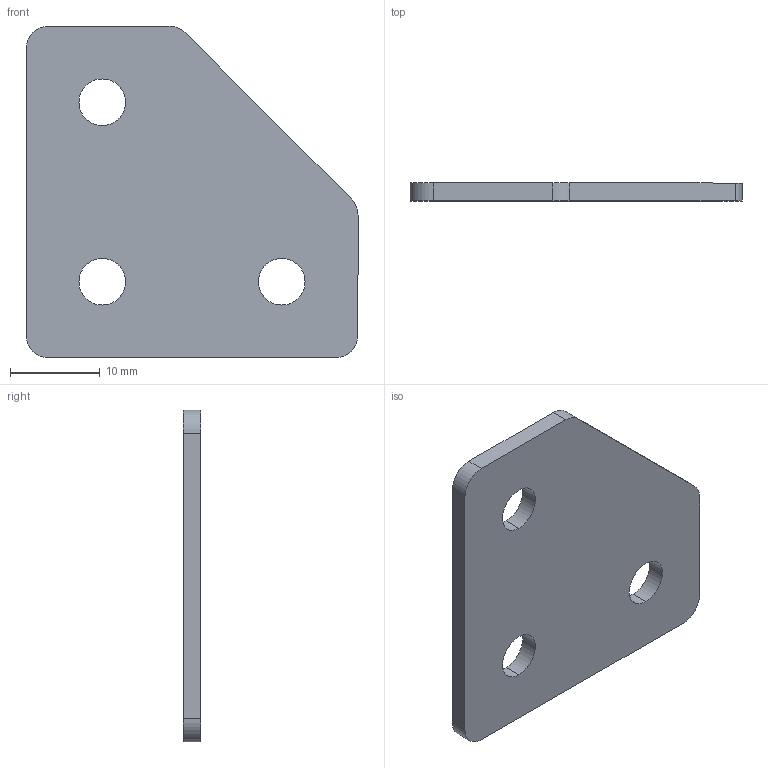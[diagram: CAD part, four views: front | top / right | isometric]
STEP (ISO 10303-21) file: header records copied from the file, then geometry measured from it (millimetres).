
FILE_DESCRIPTION (( 'STEP AP203' ), '1' );
FILE_NAME ('g-3-u-20.STEP', '2016-07-19T10:44:24', ( 'RosInstal-MKM' ), ( '' ), 'SwSTEP 2.0', 'SolidWorks 2014', '' );
FILE_SCHEMA (( 'CONFIG_CONTROL_DESIGN' ));
Length unit declared in the file: millimetre
Products named in the file (1): g-3-u-20
Bounding box: 37 x 2 x 37 mm (x, y, z)
Volume: 2201.3 mm3; surface area: 2564.7 mm2
Topology: 1 solids, 1 shells, 18 faces, 48 edges, 32 vertices
Faces by surface type: cylinder 11, plane 7
Entity records: 663 total; most frequent: DIRECTION 108, CARTESIAN_POINT 99, ORIENTED_EDGE 96, EDGE_CURVE 48, AXIS2_PLACEMENT_3D 41, VERTEX_POINT 32, LINE 26, VECTOR 26
